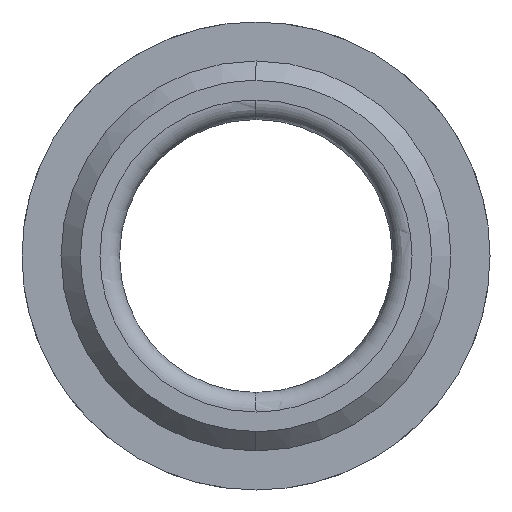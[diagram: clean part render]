
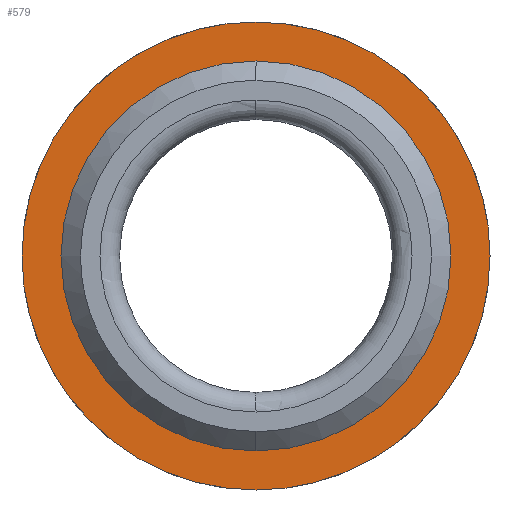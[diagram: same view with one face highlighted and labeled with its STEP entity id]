
A CAD part, left-side view. The second image highlights one B-rep face of the part: STEP entity #579.
In plain terms, the highlighted planar face has unit normal (-1, 0, 0).
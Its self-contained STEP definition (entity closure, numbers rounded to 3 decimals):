
#363=CARTESIAN_POINT('Vertex',(-5.,0.,10.)) ;
#366=CARTESIAN_POINT('Axis2P3D Location',(-5.,0.,0.)) ;
#370=CARTESIAN_POINT('Vertex',(-5.,10.,0.)) ;
#373=CARTESIAN_POINT('Axis2P3D Location',(-5.,0.,0.)) ;
#377=CARTESIAN_POINT('Vertex',(-5.,0.,-10.)) ;
#399=CARTESIAN_POINT('Axis2P3D Location',(-5.,0.,0.)) ;
#403=CARTESIAN_POINT('Vertex',(-5.,-10.,0.)) ;
#406=CARTESIAN_POINT('Axis2P3D Location',(-5.,0.,0.)) ;
#486=CARTESIAN_POINT('Axis2P3D Location',(-5.,12.,0.)) ;
#492=CARTESIAN_POINT('Control Point',(-5.,0.,-12.)) ;
#493=CARTESIAN_POINT('Control Point',(-5.,0.982,-12.)) ;
#494=CARTESIAN_POINT('Control Point',(-5.,1.964,-11.9)) ;
#495=CARTESIAN_POINT('Control Point',(-5.,2.932,-11.699)) ;
#496=CARTESIAN_POINT('Control Point',(-5.,5.011,-11.039)) ;
#497=CARTESIAN_POINT('Control Point',(-5.,6.895,-9.93)) ;
#498=CARTESIAN_POINT('Control Point',(-5.,7.845,-9.197)) ;
#499=CARTESIAN_POINT('Control Point',(-5.,9.546,-7.512)) ;
#500=CARTESIAN_POINT('Control Point',(-5.,10.784,-5.463)) ;
#501=CARTESIAN_POINT('Control Point',(-5.,11.273,-4.367)) ;
#502=CARTESIAN_POINT('Control Point',(-5.,11.741,-2.824)) ;
#503=CARTESIAN_POINT('Control Point',(-5.,11.947,-1.236)) ;
#504=CARTESIAN_POINT('Control Point',(-5.,11.982,-0.824)) ;
#505=CARTESIAN_POINT('Control Point',(-5.,12.,-0.412)) ;
#506=CARTESIAN_POINT('Control Point',(-5.,12.,0.)) ;
#507=CARTESIAN_POINT('Vertex',(-5.,0.,-12.)) ;
#509=CARTESIAN_POINT('Vertex',(-5.,12.,0.)) ;
#513=CARTESIAN_POINT('Control Point',(-5.,-12.,0.)) ;
#514=CARTESIAN_POINT('Control Point',(-5.,-12.,-1.188)) ;
#515=CARTESIAN_POINT('Control Point',(-5.,-11.853,-2.376)) ;
#516=CARTESIAN_POINT('Control Point',(-5.,-11.559,-3.54)) ;
#517=CARTESIAN_POINT('Control Point',(-5.,-10.689,-5.77)) ;
#518=CARTESIAN_POINT('Control Point',(-5.,-9.302,-7.721)) ;
#519=CARTESIAN_POINT('Control Point',(-5.,-8.49,-8.605)) ;
#520=CARTESIAN_POINT('Control Point',(-5.,-6.665,-10.155)) ;
#521=CARTESIAN_POINT('Control Point',(-5.,-4.518,-11.213)) ;
#522=CARTESIAN_POINT('Control Point',(-5.,-3.384,-11.606)) ;
#523=CARTESIAN_POINT('Control Point',(-5.,-2.01,-11.897)) ;
#524=CARTESIAN_POINT('Control Point',(-5.,-0.618,-11.987)) ;
#525=CARTESIAN_POINT('Control Point',(-5.,-0.412,-11.996)) ;
#526=CARTESIAN_POINT('Control Point',(-5.,-0.206,-12.)) ;
#527=CARTESIAN_POINT('Control Point',(-5.,0.,-12.)) ;
#528=CARTESIAN_POINT('Vertex',(-5.,-12.,0.)) ;
#532=CARTESIAN_POINT('Control Point',(-5.,0.,12.)) ;
#533=CARTESIAN_POINT('Control Point',(-5.,-0.982,12.)) ;
#534=CARTESIAN_POINT('Control Point',(-5.,-1.964,11.9)) ;
#535=CARTESIAN_POINT('Control Point',(-5.,-2.932,11.699)) ;
#536=CARTESIAN_POINT('Control Point',(-5.,-5.011,11.039)) ;
#537=CARTESIAN_POINT('Control Point',(-5.,-6.895,9.93)) ;
#538=CARTESIAN_POINT('Control Point',(-5.,-7.845,9.197)) ;
#539=CARTESIAN_POINT('Control Point',(-5.,-9.546,7.512)) ;
#540=CARTESIAN_POINT('Control Point',(-5.,-10.784,5.463)) ;
#541=CARTESIAN_POINT('Control Point',(-5.,-11.273,4.367)) ;
#542=CARTESIAN_POINT('Control Point',(-5.,-11.741,2.824)) ;
#543=CARTESIAN_POINT('Control Point',(-5.,-11.947,1.236)) ;
#544=CARTESIAN_POINT('Control Point',(-5.,-11.982,0.824)) ;
#545=CARTESIAN_POINT('Control Point',(-5.,-12.,0.412)) ;
#546=CARTESIAN_POINT('Control Point',(-5.,-12.,0.)) ;
#547=CARTESIAN_POINT('Vertex',(-5.,0.,12.)) ;
#551=CARTESIAN_POINT('Control Point',(-5.,12.,0.)) ;
#552=CARTESIAN_POINT('Control Point',(-5.,12.,1.188)) ;
#553=CARTESIAN_POINT('Control Point',(-5.,11.853,2.376)) ;
#554=CARTESIAN_POINT('Control Point',(-5.,11.559,3.54)) ;
#555=CARTESIAN_POINT('Control Point',(-5.,10.689,5.77)) ;
#556=CARTESIAN_POINT('Control Point',(-5.,9.302,7.721)) ;
#557=CARTESIAN_POINT('Control Point',(-5.,8.49,8.605)) ;
#558=CARTESIAN_POINT('Control Point',(-5.,6.665,10.155)) ;
#559=CARTESIAN_POINT('Control Point',(-5.,4.518,11.213)) ;
#560=CARTESIAN_POINT('Control Point',(-5.,3.384,11.606)) ;
#561=CARTESIAN_POINT('Control Point',(-5.,2.01,11.897)) ;
#562=CARTESIAN_POINT('Control Point',(-5.,0.618,11.987)) ;
#563=CARTESIAN_POINT('Control Point',(-5.,0.412,11.996)) ;
#564=CARTESIAN_POINT('Control Point',(-5.,0.206,12.)) ;
#565=CARTESIAN_POINT('Control Point',(-5.,0.,12.)) ;
#367=DIRECTION('Axis2P3D Direction',(-1.,-0.,-0.)) ;
#374=DIRECTION('Axis2P3D Direction',(-1.,-0.,-0.)) ;
#400=DIRECTION('Axis2P3D Direction',(-1.,-0.,-0.)) ;
#407=DIRECTION('Axis2P3D Direction',(-1.,-0.,-0.)) ;
#487=DIRECTION('Axis2P3D Direction',(-1.,0.,0.)) ;
#488=DIRECTION('Axis2P3D XDirection',(0.,0.,1.)) ;
#368=AXIS2_PLACEMENT_3D('Circle Axis2P3D',#366,#367,$) ;
#375=AXIS2_PLACEMENT_3D('Circle Axis2P3D',#373,#374,$) ;
#401=AXIS2_PLACEMENT_3D('Circle Axis2P3D',#399,#400,$) ;
#408=AXIS2_PLACEMENT_3D('Circle Axis2P3D',#406,#407,$) ;
#489=AXIS2_PLACEMENT_3D('Plane Axis2P3D',#486,#487,#488) ;
#568=ORIENTED_EDGE('',*,*,#511,.F.) ;
#569=ORIENTED_EDGE('',*,*,#530,.F.) ;
#570=ORIENTED_EDGE('',*,*,#549,.F.) ;
#571=ORIENTED_EDGE('',*,*,#566,.F.) ;
#574=ORIENTED_EDGE('',*,*,#372,.T.) ;
#575=ORIENTED_EDGE('',*,*,#410,.T.) ;
#576=ORIENTED_EDGE('',*,*,#405,.T.) ;
#577=ORIENTED_EDGE('',*,*,#379,.T.) ;
#578=FACE_BOUND('',#573,.T.) ;
#579=ADVANCED_FACE('355-14X40',(#572,#578),#490,.T.) ;
#491=B_SPLINE_CURVE_WITH_KNOTS('',5,(#492,#493,#494,#495,#496,#497,#498,#499,#500,#501,#502,#503,#504,#505,#506),.UNSPECIFIED.,.F.,.U.,(6,3,3,3,6),(26.657,33.6,42.,50.399,53.312),.UNSPECIFIED.) ;
#512=B_SPLINE_CURVE_WITH_KNOTS('',5,(#513,#514,#515,#516,#517,#518,#519,#520,#521,#522,#523,#524,#525,#526,#527),.UNSPECIFIED.,.F.,.U.,(6,3,3,3,6),(0.,8.4,16.8,25.2,26.657),.UNSPECIFIED.) ;
#531=B_SPLINE_CURVE_WITH_KNOTS('',5,(#532,#533,#534,#535,#536,#537,#538,#539,#540,#541,#542,#543,#544,#545,#546),.UNSPECIFIED.,.F.,.U.,(6,3,3,3,6),(26.657,33.6,42.,50.399,53.312),.UNSPECIFIED.) ;
#550=B_SPLINE_CURVE_WITH_KNOTS('',5,(#551,#552,#553,#554,#555,#556,#557,#558,#559,#560,#561,#562,#563,#564,#565),.UNSPECIFIED.,.F.,.U.,(6,3,3,3,6),(0.,8.4,16.8,25.2,26.657),.UNSPECIFIED.) ;
#369=CIRCLE('generated circle',#368,10.) ;
#376=CIRCLE('generated circle',#375,10.) ;
#402=CIRCLE('generated circle',#401,10.) ;
#409=CIRCLE('generated circle',#408,10.) ;
#372=EDGE_CURVE('',#371,#364,#369,.F.) ;
#379=EDGE_CURVE('',#378,#371,#376,.F.) ;
#405=EDGE_CURVE('',#404,#378,#402,.F.) ;
#410=EDGE_CURVE('',#364,#404,#409,.F.) ;
#511=EDGE_CURVE('',#508,#510,#491,.T.) ;
#530=EDGE_CURVE('',#529,#508,#512,.T.) ;
#549=EDGE_CURVE('',#548,#529,#531,.T.) ;
#566=EDGE_CURVE('',#510,#548,#550,.T.) ;
#567=EDGE_LOOP('',(#568,#569,#570,#571)) ;
#573=EDGE_LOOP('',(#574,#575,#576,#577)) ;
#572=FACE_OUTER_BOUND('',#567,.T.) ;
#490=PLANE('Plane',#489) ;
#364=VERTEX_POINT('',#363) ;
#371=VERTEX_POINT('',#370) ;
#378=VERTEX_POINT('',#377) ;
#404=VERTEX_POINT('',#403) ;
#508=VERTEX_POINT('',#507) ;
#510=VERTEX_POINT('',#509) ;
#529=VERTEX_POINT('',#528) ;
#548=VERTEX_POINT('',#547) ;
